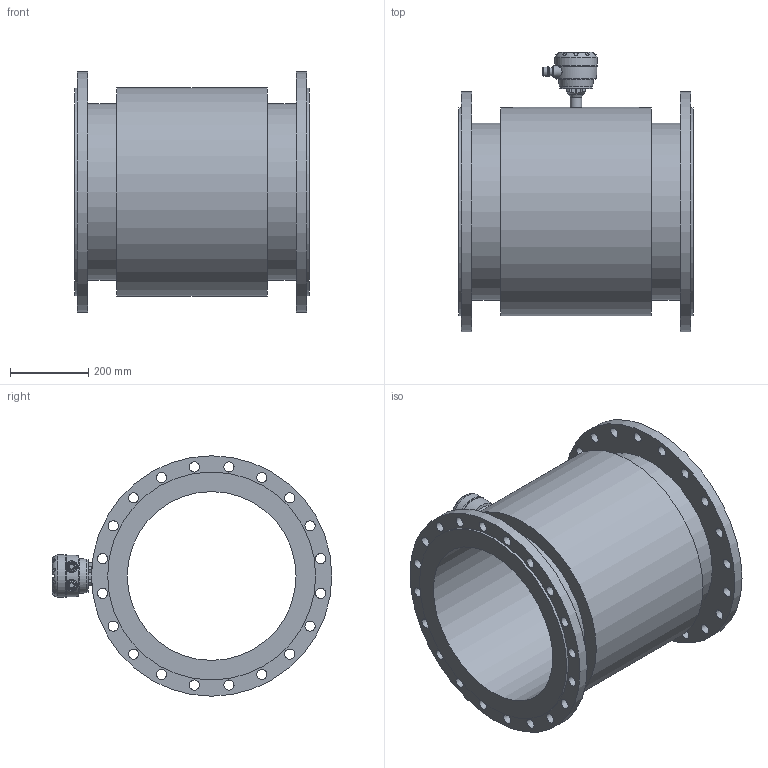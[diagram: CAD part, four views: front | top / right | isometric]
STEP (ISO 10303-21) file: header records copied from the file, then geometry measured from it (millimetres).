
FILE_DESCRIPTION (( 'STEP AP203' ), '1' );
FILE_NAME ('KROHNE_OPTIFLUX_2-4000W-WATERFLUX_3000F_DIN2632_DN450_PN10.STEP', '2011-04-26T11:23:13', ( '' ), ( '' ), 'SwSTEP 2.0', 'SolidWorks 2010', '' );
FILE_SCHEMA (( 'CONFIG_CONTROL_DESIGN' ));
Length unit declared in the file: millimetre
Products named in the file (1): KROHNE_OPTIFLUX_2-4000W-WATERFLUX_3000F_DIN2632_DN450_PN10
Bounding box: 600 x 715.49 x 615 mm (x, y, z)
Volume: 40738076.8 mm3; surface area: 2639814.2 mm2
Topology: 14 solids, 14 shells, 367 faces, 931 edges, 614 vertices
Faces by surface type: plane 158, cylinder 119, bspline 53, torus 18, sphere 13, cone 6
Full cylindrical faces by diameter (mm): 4 x4, 6.6 x8, 13 x2, 20 x2, 23.5 x4, 26 x40, 29 x1, 30 x2, 84 x2, 109 x1, 432 x1, 452 x2, 532 x2, 533 x1, 615 x2
Entity records: 14795 total; most frequent: CARTESIAN_POINT 6616, DIRECTION 1557, ORIENTED_EDGE 1554, EDGE_CURVE 777, EDGE_LOOP 598, AXIS2_PLACEMENT_3D 597, VERTEX_POINT 561, FACE_OUTER_BOUND 458
